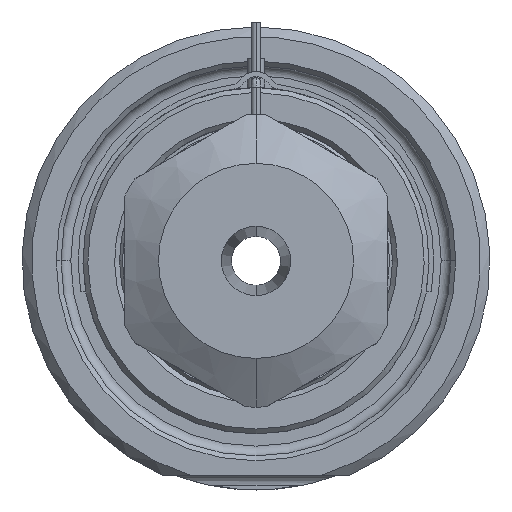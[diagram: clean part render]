
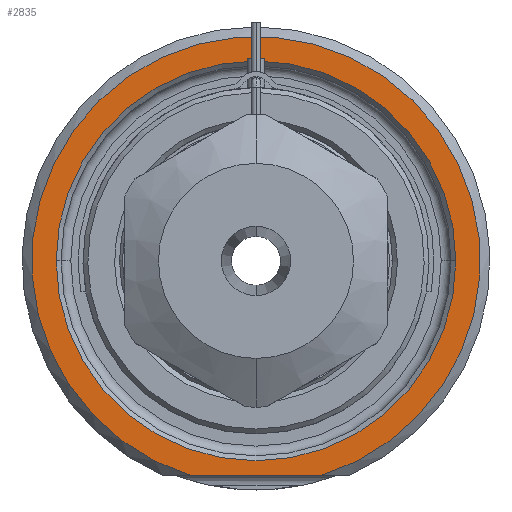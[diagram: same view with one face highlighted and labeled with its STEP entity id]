
A CAD part, front view. The second image highlights one B-rep face of the part: STEP entity #2835.
In plain terms, the highlighted planar face has unit normal (0, -1, 0).
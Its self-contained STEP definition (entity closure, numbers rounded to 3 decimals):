
#1=DIRECTION('',(1.,0.,0.));
#2=VECTOR('',#1,13.416);
#3=CARTESIAN_POINT('',(-6.708,0.,-22.));
#4=LINE('',#3,#2);
#5=CARTESIAN_POINT('',(0.,0.,0.));
#6=DIRECTION('',(0.,1.,0.));
#7=DIRECTION('',(-1.,0.,0.));
#8=AXIS2_PLACEMENT_3D('',#5,#6,#7);
#10=CARTESIAN_POINT('',(0.,0.,0.));
#11=DIRECTION('',(0.,1.,0.));
#12=DIRECTION('',(1.,0.,0.));
#13=AXIS2_PLACEMENT_3D('',#10,#11,#12);
#121=CARTESIAN_POINT('',(0.,0.,0.));
#122=DIRECTION('',(0.,-1.,0.));
#123=DIRECTION('',(0.292,0.,-0.957));
#124=AXIS2_PLACEMENT_3D('',#121,#122,#123);
#2349=CARTESIAN_POINT('',(-20.5,0.,0.));
#2350=CARTESIAN_POINT('',(20.5,0.,0.));
#2351=VERTEX_POINT('',#2349);
#2352=VERTEX_POINT('',#2350);
#2389=CARTESIAN_POINT('',(-6.708,0.,-22.));
#2390=CARTESIAN_POINT('',(6.708,0.,-22.));
#2391=VERTEX_POINT('',#2389);
#2392=VERTEX_POINT('',#2390);
#2818=CARTESIAN_POINT('',(0.,0.,0.));
#2819=DIRECTION('',(0.,-1.,0.));
#2820=DIRECTION('',(1.,0.,0.));
#2821=AXIS2_PLACEMENT_3D('',#2818,#2819,#2820);
#2822=PLANE('',#2821);
#2824=ORIENTED_EDGE('',*,*,#2823,.F.);
#2826=ORIENTED_EDGE('',*,*,#2825,.F.);
#2827=EDGE_LOOP('',(#2824,#2826));
#2828=FACE_OUTER_BOUND('',#2827,.F.);
#2830=ORIENTED_EDGE('',*,*,#2829,.F.);
#2832=ORIENTED_EDGE('',*,*,#2831,.F.);
#2833=EDGE_LOOP('',(#2830,#2832));
#2834=FACE_BOUND('',#2833,.F.);
#2835=ADVANCED_FACE('',(#2828,#2834),#2822,.T.);
#9=CIRCLE('',#8,20.5);
#14=CIRCLE('',#13,20.5);
#125=CIRCLE('',#124,23.);
#2823=EDGE_CURVE('',#2391,#2392,#4,.T.);
#2825=EDGE_CURVE('',#2392,#2391,#125,.T.);
#2829=EDGE_CURVE('',#2351,#2352,#9,.T.);
#2831=EDGE_CURVE('',#2352,#2351,#14,.T.);
